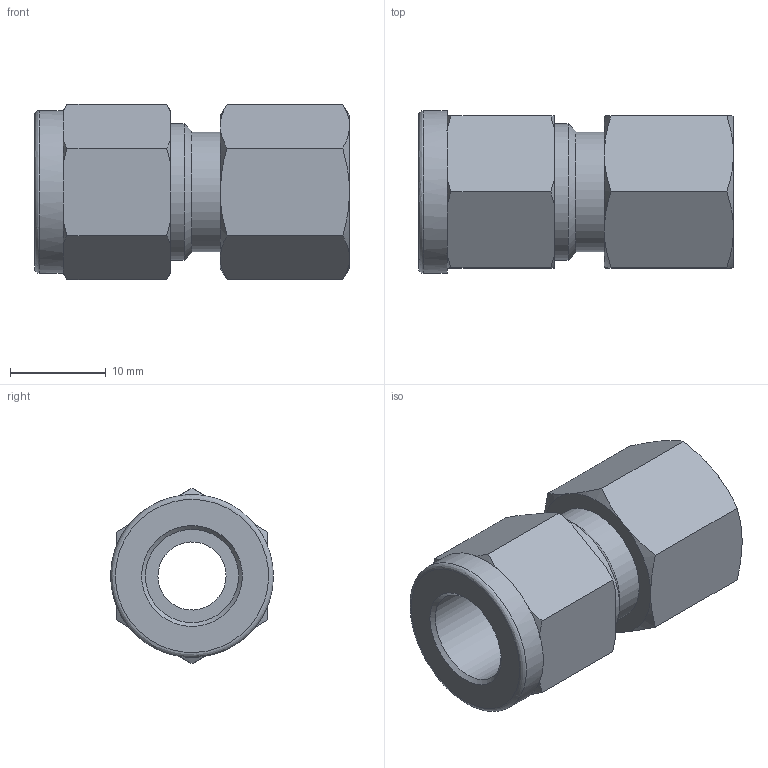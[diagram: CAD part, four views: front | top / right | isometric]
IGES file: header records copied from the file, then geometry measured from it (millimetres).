
Global section: file name: SFC-6-2; native system: Autodesk Inventor 2016; preprocessor: unknown; author: 배성훈,,11,0; organization: 20151010.050142; date: 20151019.102354; units: millimetre
Bounding box: 32.91 x 17 x 18.34 mm (x, y, z)
Volume: 4660.5 mm3; surface area: 3157.9 mm2
Topology: 1 solids, 1 shells, 60 faces, 160 edges, 106 vertices
Faces by surface type: bspline 60
